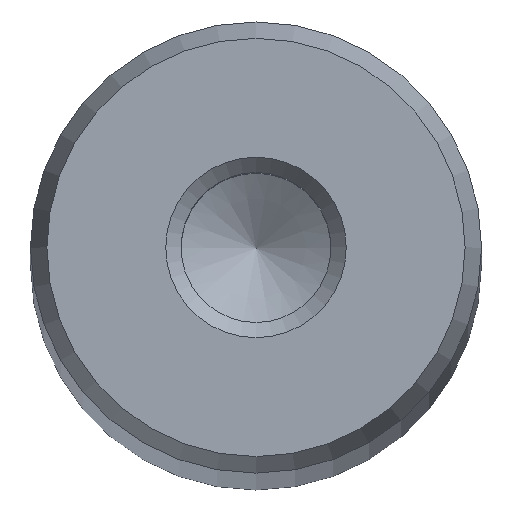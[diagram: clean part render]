
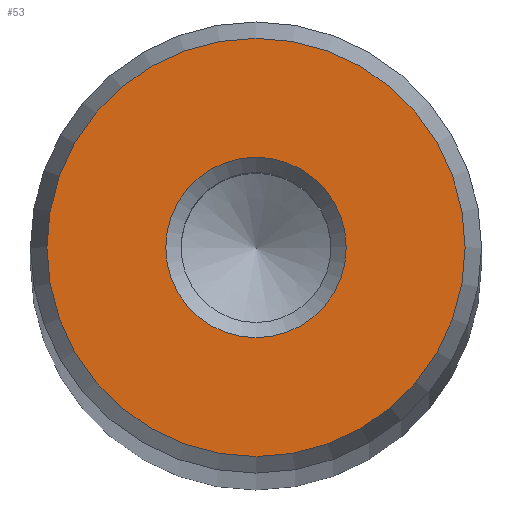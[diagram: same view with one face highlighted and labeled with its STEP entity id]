
A CAD part, top view. The second image highlights one B-rep face of the part: STEP entity #53.
In plain terms, the highlighted planar face has unit normal (0, 0, 1).
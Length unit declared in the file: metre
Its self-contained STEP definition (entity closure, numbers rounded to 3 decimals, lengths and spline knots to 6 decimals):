
#53 = ADVANCED_FACE( '', ( #112, #113 ), #114, .T. );
#112 = FACE_OUTER_BOUND( '', #171, .T. );
#113 = FACE_BOUND( '', #172, .T. );
#114 = PLANE( '', #173 );
#171 = EDGE_LOOP( '', ( #240 ) );
#172 = EDGE_LOOP( '', ( #241 ) );
#173 = AXIS2_PLACEMENT_3D( '', #242, #243, #244 );
#240 = ORIENTED_EDGE( '', *, *, #277, .T. );
#241 = ORIENTED_EDGE( '', *, *, #289, .T. );
#242 = CARTESIAN_POINT( '', ( 0., 0., 0.432 ) );
#243 = DIRECTION( '', ( 0., 0., 1. ) );
#244 = DIRECTION( '', ( 1., 0., 0. ) );
#277 = EDGE_CURVE( '', #309, #309, #310, .T. );
#289 = EDGE_CURVE( '', #325, #325, #326, .T. );
#309 = VERTEX_POINT( '', #346 );
#310 = CIRCLE( '', #347, 0.009272 );
#325 = VERTEX_POINT( '', #362 );
#326 = CIRCLE( '', #363, 0.004 );
#346 = CARTESIAN_POINT( '', ( 0.009272, 0., 0.432 ) );
#347 = AXIS2_PLACEMENT_3D( '', #385, #386, #387 );
#362 = CARTESIAN_POINT( '', ( 0.004, 0., 0.432 ) );
#363 = AXIS2_PLACEMENT_3D( '', #400, #401, #402 );
#385 = CARTESIAN_POINT( '', ( 0., 0., 0.432 ) );
#386 = DIRECTION( '', ( 0., 0., 1. ) );
#387 = DIRECTION( '', ( 1., 0., 0. ) );
#400 = CARTESIAN_POINT( '', ( 0., 0., 0.432 ) );
#401 = DIRECTION( '', ( 0., 0., -1. ) );
#402 = DIRECTION( '', ( 1., 0., 0. ) );
